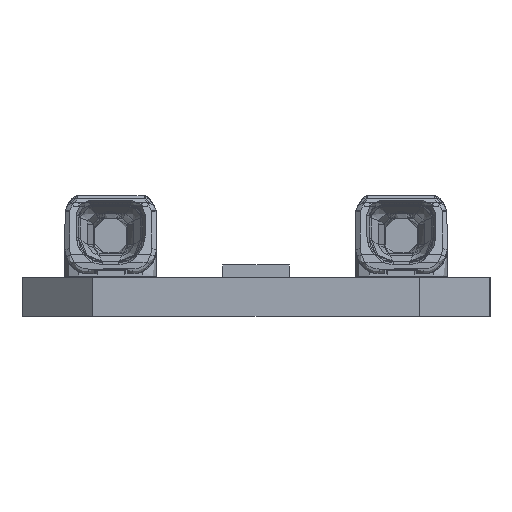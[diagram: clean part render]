
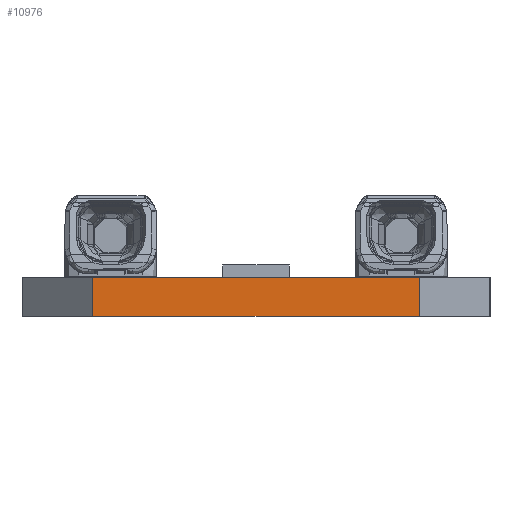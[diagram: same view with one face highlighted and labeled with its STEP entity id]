
A CAD part, left-side view. The second image highlights one B-rep face of the part: STEP entity #10976.
In plain terms, the highlighted planar face has unit normal (-1, 0, 0).
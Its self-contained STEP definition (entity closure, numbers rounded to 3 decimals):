
#116=DIRECTION('',(0.,1.,0.));
#117=VECTOR('',#116,13.8);
#118=CARTESIAN_POINT('',(-559.5,-6.9,1.65));
#119=LINE('',#118,#117);
#2848=DIRECTION('',(0.,1.,0.));
#2849=VECTOR('',#2848,13.8);
#2850=CARTESIAN_POINT('',(-559.5,-6.9,0.));
#2851=LINE('',#2850,#2849);
#2852=DIRECTION('',(0.,0.,1.));
#2853=VECTOR('',#2852,1.65);
#2854=CARTESIAN_POINT('',(-559.5,6.9,0.));
#2855=LINE('',#2854,#2853);
#2856=DIRECTION('',(0.,0.,1.));
#2857=VECTOR('',#2856,1.65);
#2858=CARTESIAN_POINT('',(-559.5,-6.9,0.));
#2859=LINE('',#2858,#2857);
#6564=CARTESIAN_POINT('',(-559.5,-6.9,0.));
#6565=VERTEX_POINT('',#6564);
#6566=CARTESIAN_POINT('',(-559.5,6.9,0.));
#6567=VERTEX_POINT('',#6566);
#6722=CARTESIAN_POINT('',(-559.5,6.9,1.65));
#6723=VERTEX_POINT('',#6722);
#6724=CARTESIAN_POINT('',(-559.5,-6.9,1.65));
#6725=VERTEX_POINT('',#6724);
#10964=CARTESIAN_POINT('',(-559.5,0.,0.825));
#10965=DIRECTION('',(1.,0.,0.));
#10966=DIRECTION('',(0.,0.,1.));
#10967=AXIS2_PLACEMENT_3D('',#10964,#10965,#10966);
#10968=PLANE('',#10967);
#10970=ORIENTED_EDGE('',*,*,#10969,.F.);
#10971=ORIENTED_EDGE('',*,*,#9832,.T.);
#10972=ORIENTED_EDGE('',*,*,#10956,.T.);
#10973=ORIENTED_EDGE('',*,*,#8458,.F.);
#10974=EDGE_LOOP('',(#10970,#10971,#10972,#10973));
#10975=FACE_OUTER_BOUND('',#10974,.F.);
#10976=ADVANCED_FACE('',(#10975),#10968,.F.);
#8458=EDGE_CURVE('',#6725,#6723,#119,.T.);
#9832=EDGE_CURVE('',#6565,#6567,#2851,.T.);
#10956=EDGE_CURVE('',#6567,#6723,#2855,.T.);
#10969=EDGE_CURVE('',#6565,#6725,#2859,.T.);
